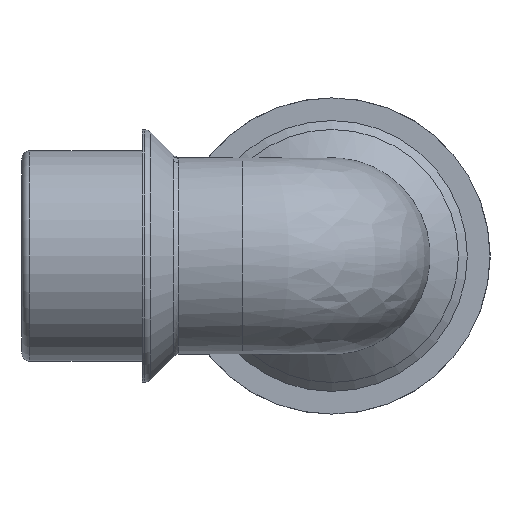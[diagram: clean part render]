
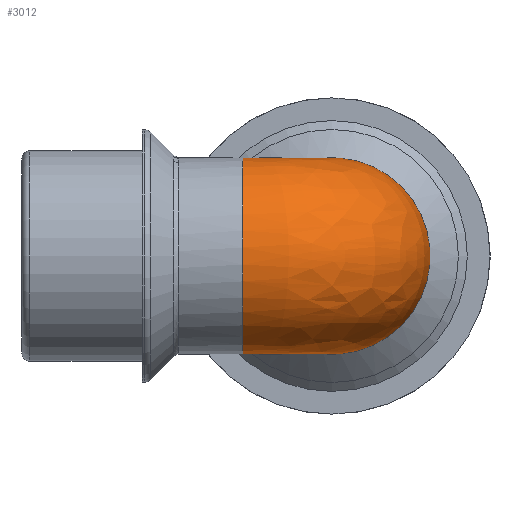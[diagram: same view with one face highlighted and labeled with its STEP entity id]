
A CAD part, left-side view. The second image highlights one B-rep face of the part: STEP entity #3012.
In plain terms, the highlighted free-form (B-spline) face has degree [2, 2] with [9, 3] control points.
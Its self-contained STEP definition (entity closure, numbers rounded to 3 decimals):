
#518=(
BOUNDED_SURFACE()
B_SPLINE_SURFACE(2,2,((#4607,#4608,#4609),(#4610,#4611,#4612),(#4613,#4614,
#4615),(#4616,#4617,#4618),(#4619,#4620,#4621),(#4622,#4623,#4624),(#4625,
#4626,#4627),(#4628,#4629,#4630),(#4631,#4632,#4633)),.UNSPECIFIED.,.F.,
 .F.,.F.)
B_SPLINE_SURFACE_WITH_KNOTS((3,2,2,2,3),(3,3),(-2.701,-1.351,
0.,1.351,2.701),(-3.142,-1.571),
 .UNSPECIFIED.)
GEOMETRIC_REPRESENTATION_ITEM()
RATIONAL_B_SPLINE_SURFACE(((1.,0.707,1.),(0.781,
0.552,0.781),(1.,0.707,1.),(0.781,
0.552,0.781),(1.,0.707,1.),(0.781,
0.552,0.781),(1.,0.707,1.),(0.781,
0.552,0.781),(1.,0.707,1.)))
REPRESENTATION_ITEM('')
SURFACE()
);
#655=FACE_OUTER_BOUND('',#870,.T.);
#870=EDGE_LOOP('',(#2027,#2028));
#1102=CIRCLE('',#3225,15.544);
#1106=CIRCLE('',#3231,15.544);
#1282=VERTEX_POINT('',#4582);
#1283=VERTEX_POINT('',#4583);
#1559=EDGE_CURVE('',#1282,#1283,#1102,.T.);
#1563=EDGE_CURVE('',#1282,#1283,#1106,.T.);
#2027=ORIENTED_EDGE('',*,*,#1559,.T.);
#2028=ORIENTED_EDGE('',*,*,#1563,.F.);
#3012=ADVANCED_FACE('',(#655),#518,.F.);
#3225=AXIS2_PLACEMENT_3D('',#4598,#3620,#3621);
#3231=AXIS2_PLACEMENT_3D('',#4634,#3632,#3633);
#3620=DIRECTION('center_axis',(0.,-1.,0.));
#3621=DIRECTION('ref_axis',(-1.,0.,0.));
#3632=DIRECTION('center_axis',(1.,0.,0.));
#3633=DIRECTION('ref_axis',(0.,0.,-1.));
#4582=CARTESIAN_POINT('',(14.06,14.06,6.628));
#4583=CARTESIAN_POINT('',(14.06,14.06,-6.628));
#4598=CARTESIAN_POINT('Origin',(0.,14.06,0.));
#4607=CARTESIAN_POINT('Ctrl Pts',(14.06,14.06,-6.628));
#4608=CARTESIAN_POINT('Ctrl Pts',(14.06,14.06,-6.628));
#4609=CARTESIAN_POINT('Ctrl Pts',(14.06,14.06,-6.628));
#4610=CARTESIAN_POINT('Ctrl Pts',(8.752,14.06,-17.888));
#4611=CARTESIAN_POINT('Ctrl Pts',(8.752,8.752,-17.888));
#4612=CARTESIAN_POINT('Ctrl Pts',(14.06,8.752,-17.888));
#4613=CARTESIAN_POINT('Ctrl Pts',(-3.396,14.06,-15.168));
#4614=CARTESIAN_POINT('Ctrl Pts',(-3.396,-3.396,-15.168));
#4615=CARTESIAN_POINT('Ctrl Pts',(14.06,-3.396,-15.168));
#4616=CARTESIAN_POINT('Ctrl Pts',(-15.544,14.06,-12.449));
#4617=CARTESIAN_POINT('Ctrl Pts',(-15.544,-15.544,-12.449));
#4618=CARTESIAN_POINT('Ctrl Pts',(14.06,-15.544,-12.449));
#4619=CARTESIAN_POINT('Ctrl Pts',(-15.544,14.06,0.));
#4620=CARTESIAN_POINT('Ctrl Pts',(-15.544,-15.544,0.));
#4621=CARTESIAN_POINT('Ctrl Pts',(14.06,-15.544,0.));
#4622=CARTESIAN_POINT('Ctrl Pts',(-15.544,14.06,12.449));
#4623=CARTESIAN_POINT('Ctrl Pts',(-15.544,-15.544,12.449));
#4624=CARTESIAN_POINT('Ctrl Pts',(14.06,-15.544,12.449));
#4625=CARTESIAN_POINT('Ctrl Pts',(-3.396,14.06,15.168));
#4626=CARTESIAN_POINT('Ctrl Pts',(-3.396,-3.396,15.168));
#4627=CARTESIAN_POINT('Ctrl Pts',(14.06,-3.396,15.168));
#4628=CARTESIAN_POINT('Ctrl Pts',(8.752,14.06,17.888));
#4629=CARTESIAN_POINT('Ctrl Pts',(8.752,8.752,17.888));
#4630=CARTESIAN_POINT('Ctrl Pts',(14.06,8.752,17.888));
#4631=CARTESIAN_POINT('Ctrl Pts',(14.06,14.06,6.628));
#4632=CARTESIAN_POINT('Ctrl Pts',(14.06,14.06,6.628));
#4633=CARTESIAN_POINT('Ctrl Pts',(14.06,14.06,6.628));
#4634=CARTESIAN_POINT('Origin',(14.06,0.,0.));
